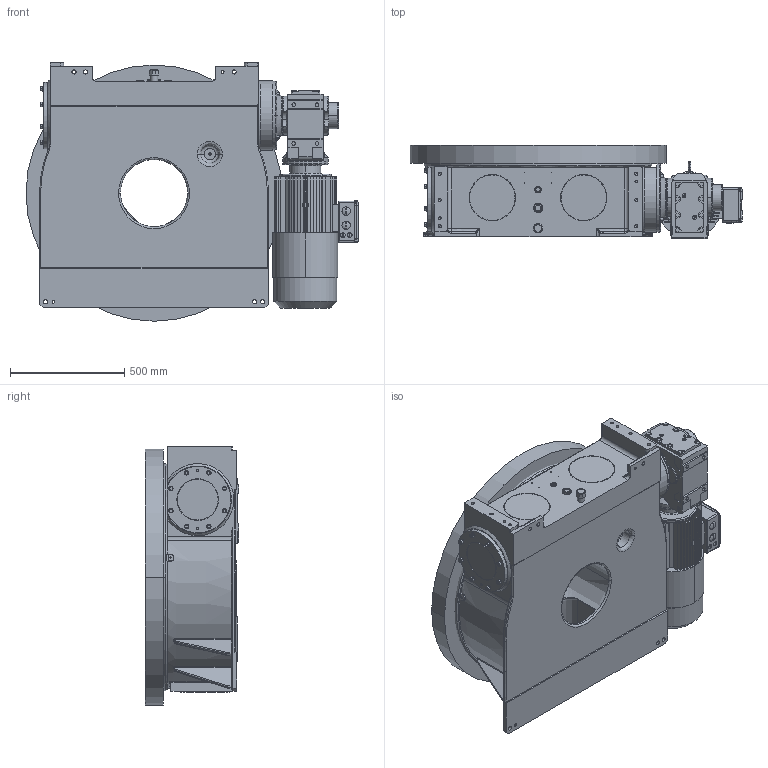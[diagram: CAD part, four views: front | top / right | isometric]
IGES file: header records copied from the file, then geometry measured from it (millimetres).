
Start section:  PTC IGES file: a6430.igs
Global section: file name: a6430.igs; native system: Pro/ENGINEER by Parametric Technology Corporation; preprocessor: 2006140; author: mueller; organization: Unknown; date: 20061129.095334; units: millimetre
Bounding box: 1452 x 410 x 1130 mm (x, y, z)
Surface area: 7137923.8 mm2 (no closed solid volume)
Topology: 0 solids, 0 shells, 1366 faces, 6844 edges, 6778 vertices
Faces by surface type: revolution 686, bspline 680
